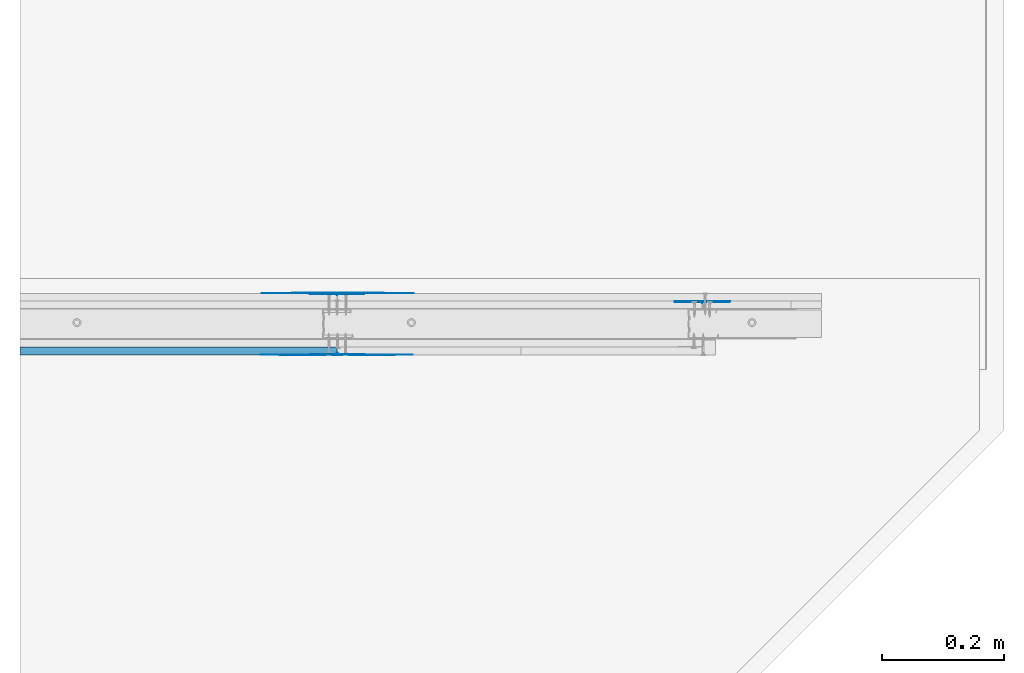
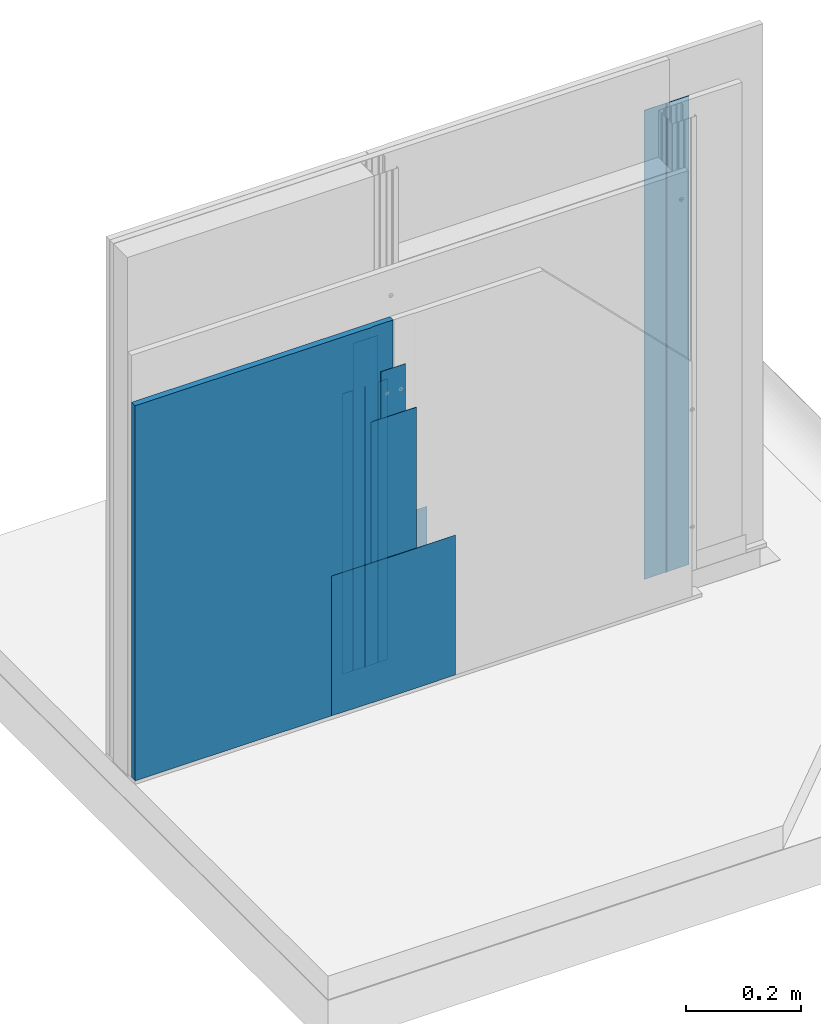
# One storey, part 4 of 37: 8 walls.
"""IFC2X3 building model written with IfcOpenShell, lengths in millimetres."""

from ifc_helpers import new_model, entity, si_unit, converted_unit, direction, frame, origin, origin_with_axes, place, context, project, spatial, faceted_brep, element, save


model = new_model("IFC2X3")

# Units and contexts
model_context = context("Model", 3, precision=1e-05, world=origin(), true_north=direction((0.0, 1.0, 0.0)))
ifc_project = project(units=[si_unit("LENGTHUNIT", "METRE", prefix="MILLI"), si_unit("AREAUNIT", "SQUARE_METRE"), si_unit("VOLUMEUNIT", "CUBIC_METRE"), converted_unit("PLANEANGLEUNIT", "DEGREE", entity("IfcPlaneAngleMeasure", 0.01745), si_unit("PLANEANGLEUNIT", "RADIAN"), dimensions=[0, 0, 0, 0, 0, 0, 0]), si_unit("SOLIDANGLEUNIT", "STERADIAN"), si_unit("MASSUNIT", "GRAM"), si_unit("TIMEUNIT", "SECOND"), si_unit("THERMODYNAMICTEMPERATUREUNIT", "DEGREE_CELSIUS"), si_unit("LUMINOUSINTENSITYUNIT", "LUMEN")], contexts=[model_context])

# Site, building, storey
site_placement = place(None, origin_with_axes())
site = spatial("IfcSite", under=ifc_project, at=site_placement, Name="Default Site", CompositionType="ELEMENT")
building_placement = place(site_placement, origin_with_axes())
building = spatial("IfcBuilding", under=site, at=building_placement, Name="Default Building", CompositionType="ELEMENT")
storey_placement = place(building_placement, origin_with_axes())
storey = spatial("IfcBuildingStorey", under=building, at=storey_placement, Name="Default Building Storey", CompositionType="ELEMENT", Elevation=0.0)

# Walls
wall_1_placement = place(storey_placement, frame((1909.970432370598, -1343.415798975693, 58.54842138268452), z_axis=(0.0, 0.0, 1.0), x_axis=(-1.0, -8.049116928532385e-16, 0.0)))
element("IfcWall", 1, at=wall_1_placement, inside=storey, Name="Taśma spoinowa RIGIPS", context=model_context, shape_type="Brep", body=[
    faceted_brep([(-712.4592163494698, -3389.356721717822, 700.7999999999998), (-712.4592163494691, -3389.856721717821, 700.7999999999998), (-762.4592163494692, -3389.856721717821, 700.7999999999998), (-762.45921634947, -3389.35672171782, 700.7999999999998), (-712.4592163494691, -3389.856721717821, 2.449996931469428), (-712.4592163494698, -3389.35672171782, 2.449996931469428), (-762.45921634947, -3389.35672171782, 2.449996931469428), (-762.4592163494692, -3389.856721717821, 2.449996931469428)], [[[0, 1, 2, 3]], [[4, 5, 6, 7]], [[5, 0, 3, 6]], [[6, 3, 2, 7]], [[7, 2, 1, 4]], [[4, 1, 0, 5]]]),
])
wall_2_placement = place(storey_placement, frame((3383.888865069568, -1343.415798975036, 58.5484213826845), z_axis=(0.0, 0.0, 1.0), x_axis=(1.0, 0.0, 0.0)))
element("IfcWall", 2, at=wall_2_placement, inside=storey, Name="Dedykowana masa szpachlowa Rigips - konstrukcyjna", context=model_context, shape_type="Brep", body=[
    faceted_brep([(-737.4838396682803, 3387.6695906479, 600.7999999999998), (-737.4592163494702, 3387.356721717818, 600.7999999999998), (-737.434593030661, 3387.6695906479, 600.7999999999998), (-737.3613293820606, 3387.974755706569, 600.7999999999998), (-737.2412293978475, 3388.264702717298, 600.7999999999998), (-737.07725033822, 3388.532292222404, 600.7999999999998), (-736.8734299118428, 3388.770935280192, 600.7999999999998), (-736.6347868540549, 3388.974755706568, 600.7999999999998), (-736.3671973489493, 3389.138734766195, 600.7999999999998), (-736.0772503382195, 3389.258834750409, 600.7999999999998), (-735.7720852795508, 3389.332098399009, 600.7999999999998), (-735.45921634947, 3389.356721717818, 600.7999999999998), (-692.4592163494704, 3389.356721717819, 600.7999999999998), (-691.4592163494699, 3390.556721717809, 600.7999999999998), (-782.4592163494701, 3390.556721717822, 600.7999999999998), (-782.4592163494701, 3389.356721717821, 600.7999999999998), (-739.4592163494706, 3389.356721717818, 600.7999999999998), (-739.1463474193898, 3389.332098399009, 600.7999999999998), (-738.8411823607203, 3389.258834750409, 600.7999999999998), (-738.5512353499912, 3389.138734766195, 600.7999999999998), (-738.2836458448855, 3388.974755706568, 600.7999999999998), (-738.0450027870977, 3388.770935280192, 600.7999999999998), (-737.8411823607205, 3388.532292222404, 600.7999999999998), (-737.6772033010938, 3388.264702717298, 600.7999999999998), (-737.55710331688, 3387.974755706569, 600.7999999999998), (-691.4592163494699, 3390.556721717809, 2.449996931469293), (-692.4592163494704, 3389.356721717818, 2.449996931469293), (-735.45921634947, 3389.356721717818, 2.449996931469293), (-735.7720852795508, 3389.332098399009, 2.449996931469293), (-736.0772503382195, 3389.258834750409, 2.449996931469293), (-736.3671973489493, 3389.138734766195, 2.449996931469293), (-736.6347868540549, 3388.974755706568, 2.449996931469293), (-736.8734299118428, 3388.770935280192, 2.449996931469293), (-737.07725033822, 3388.532292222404, 2.449996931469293), (-737.2412293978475, 3388.264702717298, 2.449996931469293), (-737.3613293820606, 3387.974755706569, 2.449996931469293), (-737.434593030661, 3387.6695906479, 2.449996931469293), (-737.4592163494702, 3387.356721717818, 2.449996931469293), (-737.4838396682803, 3387.6695906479, 2.449996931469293), (-737.55710331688, 3387.974755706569, 2.449996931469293), (-737.6772033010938, 3388.264702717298, 2.449996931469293), (-737.8411823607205, 3388.532292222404, 2.449996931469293), (-738.0450027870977, 3388.770935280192, 2.449996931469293), (-738.2836458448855, 3388.974755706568, 2.449996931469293), (-738.5512353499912, 3389.138734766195, 2.449996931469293), (-738.8411823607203, 3389.258834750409, 2.449996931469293), (-739.1463474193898, 3389.332098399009, 2.449996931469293), (-739.4592163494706, 3389.356721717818, 2.449996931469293), (-782.4592163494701, 3389.356721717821, 2.449996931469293), (-782.4592163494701, 3390.556721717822, 2.449996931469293)], [[[0, 1, 2, 3, 4, 5, 6, 7, 8, 9, 10, 11, 12, 13, 14, 15, 16, 17, 18, 19, 20, 21, 22, 23, 24]], [[25, 26, 27, 28, 29, 30, 31, 32, 33, 34, 35, 36, 37, 38, 39, 40, 41, 42, 43, 44, 45, 46, 47, 48, 49]], [[26, 12, 11, 27]], [[10, 9, 29, 28]], [[28, 27, 11, 10]], [[8, 30, 29, 9]], [[7, 6, 32, 31]], [[31, 30, 8, 7]], [[5, 4, 34, 33]], [[33, 32, 6, 5]], [[3, 35, 34, 4]], [[2, 1, 37, 36]], [[36, 35, 3, 2]], [[0, 24, 39, 38]], [[38, 37, 1, 0]], [[23, 40, 39, 24]], [[22, 21, 42, 41]], [[41, 40, 23, 22]], [[20, 19, 44, 43]], [[43, 42, 21, 20]], [[18, 45, 44, 19]], [[17, 16, 47, 46]], [[46, 45, 18, 17]], [[47, 16, 15, 48]], [[48, 15, 14, 49]], [[49, 14, 13, 25]], [[25, 13, 12, 26]]]),
])
wall_3_placement = place(storey_placement, frame((1909.970432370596, -1343.415798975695, 58.54842138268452), z_axis=(0.0, 0.0, 1.0), x_axis=(-1.0, -8.049116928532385e-16, 0.0)))
element("IfcWall", 3, at=wall_3_placement, inside=storey, Name="Dedykowana masa szpachlowa Rigips - wykończeniowa", context=model_context, shape_type="Brep", body=[
    faceted_brep([(-612.459216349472, -3390.556721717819, 2.449996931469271), (-862.459216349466, -3390.556721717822, 2.449996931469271), (-812.4612643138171, -3391.196716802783, 2.449996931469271), (-762.4602403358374, -3391.516720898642, 2.449996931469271), (-712.458192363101, -3391.516720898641, 2.449996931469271), (-662.4571683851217, -3391.19671680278, 2.449996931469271), (-762.4602403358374, -3391.516720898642, 300.8000000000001), (-812.4612643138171, -3391.196716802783, 300.8000000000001), (-862.459216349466, -3390.556721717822, 300.8000000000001), (-612.459216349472, -3390.556721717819, 300.8000000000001), (-662.4571683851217, -3391.19671680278, 300.8000000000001), (-712.458192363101, -3391.516720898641, 300.8000000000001)], [[[0, 1, 2, 3, 4, 5]], [[6, 7, 8, 9, 10, 11]], [[9, 0, 5, 10]], [[10, 5, 4, 11]], [[11, 4, 3, 6]], [[6, 3, 2, 7]], [[1, 8, 7, 2]], [[0, 9, 8, 1]]]),
])
wall_4_placement = place(storey_placement, frame((3383.701646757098, 5336.736799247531, 58.54842138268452), z_axis=(0.0, 0.0, 1.0), x_axis=(1.0, 0.0, 0.0)))
element("IfcWall", 4, at=wall_4_placement, inside=storey, Name="Taśma spoinowa RIGIPS", context=model_context, shape_type="Brep", body=[
    faceted_brep([(-712.4592163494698, -3389.356721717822, 700.7999999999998), (-712.4592163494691, -3389.856721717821, 700.7999999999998), (-762.4592163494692, -3389.856721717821, 700.7999999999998), (-762.45921634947, -3389.35672171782, 700.7999999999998), (-712.4592163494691, -3389.856721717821, 2.449996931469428), (-712.4592163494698, -3389.35672171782, 2.449996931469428), (-762.45921634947, -3389.35672171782, 2.449996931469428), (-762.4592163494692, -3389.856721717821, 2.449996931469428)], [[[0, 1, 2, 3]], [[4, 5, 6, 7]], [[5, 0, 3, 6]], [[6, 3, 2, 7]], [[7, 2, 1, 4]], [[4, 1, 0, 5]]]),
])
wall_5_placement = place(storey_placement, frame((3383.701646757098, 5336.736799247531, 58.54842138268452), z_axis=(0.0, 0.0, 1.0), x_axis=(1.0, 0.0, 0.0)))
element("IfcWall", 5, at=wall_5_placement, inside=storey, Name="Dedykowana masa szpachlowa Rigips - wykończeniowa", context=model_context, shape_type="Brep", body=[
    faceted_brep([(-612.459216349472, -3390.556721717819, 2.449996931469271), (-862.459216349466, -3390.556721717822, 2.449996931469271), (-812.4612643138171, -3391.196716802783, 2.449996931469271), (-762.4602403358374, -3391.516720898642, 2.449996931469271), (-712.458192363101, -3391.516720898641, 2.449996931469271), (-662.4571683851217, -3391.19671680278, 2.449996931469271), (-762.4602403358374, -3391.516720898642, 300.8000000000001), (-812.4612643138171, -3391.196716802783, 300.8000000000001), (-862.459216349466, -3390.556721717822, 300.8000000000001), (-612.459216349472, -3390.556721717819, 300.8000000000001), (-662.4571683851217, -3391.19671680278, 300.8000000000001), (-712.458192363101, -3391.516720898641, 300.8000000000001)], [[[0, 1, 2, 3, 4, 5]], [[6, 7, 8, 9, 10, 11]], [[9, 0, 5, 10]], [[10, 5, 4, 11]], [[11, 4, 3, 6]], [[6, 3, 2, 7]], [[1, 8, 7, 2]], [[0, 9, 8, 1]]]),
])
wall_6_placement = place(storey_placement, frame((2646.242430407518, 1958.680077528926, 1110.999999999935), z_axis=(0.0, 0.0, 1.0), x_axis=(-1.0, 6.389333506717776e-13, 0.0)))
element("IfcWall", 6, at=wall_6_placement, inside=storey, Name="Płyta gipsowo-kartonowa RIGIPS PRO (4PRO™)", context=model_context, shape_type="Brep", body=[
    faceted_brep([(521.2172969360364, 12.49999999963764, -249.9999999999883), (521.2172969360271, -3.346059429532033e-10, -249.9999999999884), (521.217296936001, -3.313573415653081e-10, -1050.001581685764), (521.2172969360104, 12.49999999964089, -1050.001581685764), (44.99999999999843, 12.50000000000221, -249.9999999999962), (40.99999999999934, 11.50000000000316, -249.9999999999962), (0.9999999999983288, 11.50000000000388, -249.9999999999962), (0.7411809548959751, 11.46592582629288, -249.9999999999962), (0.4999999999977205, 11.3660254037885, -249.9999999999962), (0.29289321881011, 11.20710678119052, -249.9999999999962), (0.1339745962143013, 11.00000000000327, -249.9999999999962), (0.03407417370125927, 10.7588190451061, -249.9999999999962), (-1.443822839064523e-12, 10.50000000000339, -249.9999999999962), (0.0, 0.0, -249.9999999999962), (44.99999999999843, 12.50000000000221, -1050.001581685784), (40.99999999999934, 11.50000000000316, -1050.001581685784), (0.9999999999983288, 11.50000000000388, -1050.001581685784), (0.7411809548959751, 11.46592582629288, -1050.001581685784), (0.4999999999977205, 11.3660254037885, -1050.001581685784), (0.29289321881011, 11.20710678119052, -1050.001581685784), (0.1339745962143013, 11.00000000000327, -1050.001581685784), (0.03407417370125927, 10.7588190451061, -1050.001581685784), (-1.443822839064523e-12, 10.50000000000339, -1050.001581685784), (0.0, 0.0, -1050.001581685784)], [[[0, 1, 2, 3]], [[0, 4, 5, 6, 7, 8, 9, 10, 11, 12, 13, 1]], [[3, 14, 4, 0]], [[5, 4, 14, 15]], [[6, 5, 15, 16]], [[7, 6, 16, 17]], [[8, 7, 17, 18]], [[9, 8, 18, 19]], [[10, 9, 19, 20]], [[11, 10, 20, 21]], [[12, 11, 21, 22]], [[13, 12, 22, 23]], [[2, 1, 13, 23]], [[14, 3, 2, 23, 22, 21, 20, 19, 18, 17, 16, 15]]]),
])
wall_7_placement = place(storey_placement, frame((1909.78321405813, 5336.736799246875, 58.5484213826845), z_axis=(0.0, 0.0, 1.0), x_axis=(-1.0, 0.0, 0.0)))
element("IfcWall", 7, at=wall_7_placement, inside=storey, Name="Dedykowana masa szpachlowa Rigips - konstrukcyjna", context=model_context, shape_type="Brep", body=[
    faceted_brep([(-737.4838396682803, 3387.6695906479, 600.7999999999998), (-737.4592163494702, 3387.356721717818, 600.7999999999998), (-737.434593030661, 3387.6695906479, 600.7999999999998), (-737.3613293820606, 3387.974755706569, 600.7999999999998), (-737.2412293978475, 3388.264702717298, 600.7999999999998), (-737.07725033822, 3388.532292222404, 600.7999999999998), (-736.8734299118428, 3388.770935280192, 600.7999999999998), (-736.6347868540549, 3388.974755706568, 600.7999999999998), (-736.3671973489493, 3389.138734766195, 600.7999999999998), (-736.0772503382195, 3389.258834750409, 600.7999999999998), (-735.7720852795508, 3389.332098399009, 600.7999999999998), (-735.45921634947, 3389.356721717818, 600.7999999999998), (-692.4592163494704, 3389.356721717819, 600.7999999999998), (-691.4592163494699, 3390.556721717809, 600.7999999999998), (-782.4592163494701, 3390.556721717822, 600.7999999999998), (-782.4592163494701, 3389.356721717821, 600.7999999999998), (-739.4592163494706, 3389.356721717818, 600.7999999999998), (-739.1463474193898, 3389.332098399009, 600.7999999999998), (-738.8411823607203, 3389.258834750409, 600.7999999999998), (-738.5512353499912, 3389.138734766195, 600.7999999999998), (-738.2836458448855, 3388.974755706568, 600.7999999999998), (-738.0450027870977, 3388.770935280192, 600.7999999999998), (-737.8411823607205, 3388.532292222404, 600.7999999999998), (-737.6772033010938, 3388.264702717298, 600.7999999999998), (-737.55710331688, 3387.974755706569, 600.7999999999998), (-691.4592163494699, 3390.556721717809, 2.449996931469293), (-692.4592163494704, 3389.356721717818, 2.449996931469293), (-735.45921634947, 3389.356721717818, 2.449996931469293), (-735.7720852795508, 3389.332098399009, 2.449996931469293), (-736.0772503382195, 3389.258834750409, 2.449996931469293), (-736.3671973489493, 3389.138734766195, 2.449996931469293), (-736.6347868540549, 3388.974755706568, 2.449996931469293), (-736.8734299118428, 3388.770935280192, 2.449996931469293), (-737.07725033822, 3388.532292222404, 2.449996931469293), (-737.2412293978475, 3388.264702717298, 2.449996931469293), (-737.3613293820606, 3387.974755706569, 2.449996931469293), (-737.434593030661, 3387.6695906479, 2.449996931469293), (-737.4592163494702, 3387.356721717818, 2.449996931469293), (-737.4838396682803, 3387.6695906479, 2.449996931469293), (-737.55710331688, 3387.974755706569, 2.449996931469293), (-737.6772033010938, 3388.264702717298, 2.449996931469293), (-737.8411823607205, 3388.532292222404, 2.449996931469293), (-738.0450027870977, 3388.770935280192, 2.449996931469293), (-738.2836458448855, 3388.974755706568, 2.449996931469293), (-738.5512353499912, 3389.138734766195, 2.449996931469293), (-738.8411823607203, 3389.258834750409, 2.449996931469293), (-739.1463474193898, 3389.332098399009, 2.449996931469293), (-739.4592163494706, 3389.356721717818, 2.449996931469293), (-782.4592163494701, 3389.356721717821, 2.449996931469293), (-782.4592163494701, 3390.556721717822, 2.449996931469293)], [[[0, 1, 2, 3, 4, 5, 6, 7, 8, 9, 10, 11, 12, 13, 14, 15, 16, 17, 18, 19, 20, 21, 22, 23, 24]], [[25, 26, 27, 28, 29, 30, 31, 32, 33, 34, 35, 36, 37, 38, 39, 40, 41, 42, 43, 44, 45, 46, 47, 48, 49]], [[26, 12, 11, 27]], [[10, 9, 29, 28]], [[28, 27, 11, 10]], [[8, 30, 29, 9]], [[7, 6, 32, 31]], [[31, 30, 8, 7]], [[5, 4, 34, 33]], [[33, 32, 6, 5]], [[3, 35, 34, 4]], [[2, 1, 37, 36]], [[36, 35, 3, 2]], [[0, 24, 39, 38]], [[38, 37, 1, 0]], [[23, 40, 39, 24]], [[22, 21, 42, 41]], [[41, 40, 23, 22]], [[20, 19, 44, 43]], [[43, 42, 21, 20]], [[18, 45, 44, 19]], [[17, 16, 47, 46]], [[46, 45, 18, 17]], [[47, 16, 15, 48]], [[48, 15, 14, 49]], [[49, 14, 13, 25]], [[25, 13, 12, 26]]]),
])
wall_8_placement = place(storey_placement, frame((3984.303078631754, -1356.465798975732, 354.1766678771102), z_axis=(0.0, 0.0, 1.0), x_axis=(1.0, 0.0, 0.0)))
element("IfcWall", 8, at=wall_8_placement, inside=storey, Name="Dedykowana masa szpachlowa Rigips - konstrukcyjna", context=model_context, shape_type="Brep", body=[
    faceted_brep([(-737.4838396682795, 3387.669590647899, 706.8233321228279), (-737.4592163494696, 3387.356721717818, 706.8233321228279), (-737.4345930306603, 3387.669590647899, 706.8233321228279), (-737.3613293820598, 3387.974755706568, 706.8233321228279), (-737.2412293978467, 3388.264702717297, 706.8233321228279), (-737.0772503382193, 3388.532292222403, 706.8233321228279), (-736.8734299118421, 3388.770935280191, 706.8233321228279), (-736.6347868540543, 3388.974755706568, 706.8233321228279), (-736.3671973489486, 3389.138734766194, 706.8233321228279), (-736.0772503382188, 3389.258834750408, 706.8233321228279), (-735.7720852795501, 3389.332098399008, 706.8233321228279), (-735.4592163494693, 3389.356721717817, 706.8233321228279), (-692.4592163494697, 3389.356721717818, 706.8233321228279), (-691.4592163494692, 3390.556721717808, 706.8233321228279), (-782.4592163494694, 3390.556721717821, 706.8233321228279), (-782.4592163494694, 3389.356721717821, 706.8233321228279), (-739.4592163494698, 3389.356721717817, 706.8233321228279), (-739.146347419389, 3389.332098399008, 706.8233321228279), (-738.8411823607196, 3389.258834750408, 706.8233321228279), (-738.5512353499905, 3389.138734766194, 706.8233321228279), (-738.2836458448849, 3388.974755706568, 706.8233321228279), (-738.045002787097, 3388.770935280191, 706.8233321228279), (-737.8411823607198, 3388.532292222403, 706.8233321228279), (-737.6772033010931, 3388.264702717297, 706.8233321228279), (-737.5571033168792, 3387.974755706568, 706.8233321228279), (-691.4592163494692, 3390.556721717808, -293.178249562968), (-692.4592163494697, 3389.356721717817, -293.178249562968), (-735.4592163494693, 3389.356721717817, -293.178249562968), (-735.7720852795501, 3389.332098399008, -293.178249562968), (-736.0772503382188, 3389.258834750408, -293.178249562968), (-736.3671973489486, 3389.138734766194, -293.178249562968), (-736.6347868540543, 3388.974755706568, -293.178249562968), (-736.8734299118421, 3388.77093528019, -293.178249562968), (-737.0772503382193, 3388.532292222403, -293.178249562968), (-737.2412293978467, 3388.264702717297, -293.178249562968), (-737.3613293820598, 3387.974755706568, -293.178249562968), (-737.4345930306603, 3387.669590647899, -293.178249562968), (-737.4592163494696, 3387.356721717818, -293.178249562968), (-737.4838396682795, 3387.669590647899, -293.178249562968), (-737.5571033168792, 3387.974755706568, -293.178249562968), (-737.6772033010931, 3388.264702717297, -293.178249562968), (-737.8411823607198, 3388.532292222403, -293.178249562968), (-738.045002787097, 3388.77093528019, -293.178249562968), (-738.2836458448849, 3388.974755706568, -293.178249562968), (-738.5512353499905, 3389.138734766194, -293.178249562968), (-738.8411823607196, 3389.258834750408, -293.178249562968), (-739.146347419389, 3389.332098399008, -293.178249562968), (-739.4592163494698, 3389.356721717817, -293.178249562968), (-782.4592163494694, 3389.356721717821, -293.178249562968), (-782.4592163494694, 3390.556721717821, -293.178249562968)], [[[0, 1, 2, 3, 4, 5, 6, 7, 8, 9, 10, 11, 12, 13, 14, 15, 16, 17, 18, 19, 20, 21, 22, 23, 24]], [[25, 26, 27, 28, 29, 30, 31, 32, 33, 34, 35, 36, 37, 38, 39, 40, 41, 42, 43, 44, 45, 46, 47, 48, 49]], [[26, 12, 11, 27]], [[10, 9, 29, 28]], [[28, 27, 11, 10]], [[8, 30, 29, 9]], [[7, 6, 32, 31]], [[31, 30, 8, 7]], [[5, 4, 34, 33]], [[33, 32, 6, 5]], [[3, 35, 34, 4]], [[2, 1, 37, 36]], [[36, 35, 3, 2]], [[0, 24, 39, 38]], [[38, 37, 1, 0]], [[23, 40, 39, 24]], [[22, 21, 42, 41]], [[41, 40, 23, 22]], [[20, 19, 44, 43]], [[43, 42, 21, 20]], [[18, 45, 44, 19]], [[17, 16, 47, 46]], [[46, 45, 18, 17]], [[47, 16, 15, 48]], [[48, 15, 14, 49]], [[49, 14, 13, 25]], [[25, 13, 12, 26]]]),
])

save(model, "model.ifc")
